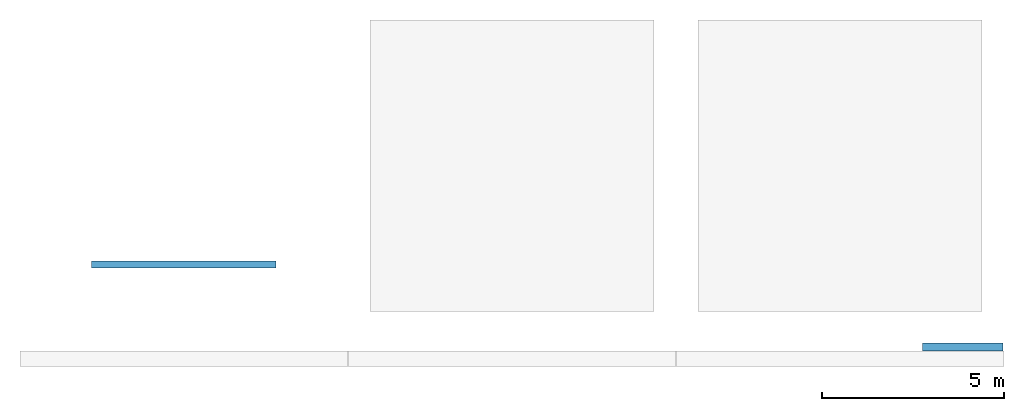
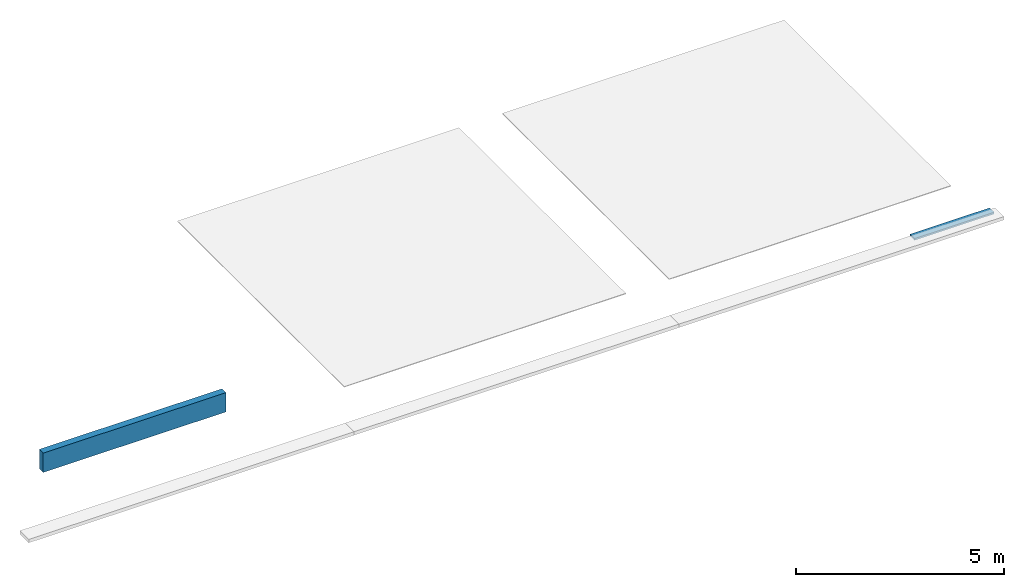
# One storey, part 1 of 2: 1 member, 1 wall, 1 element without a shape of its own.
"""IFC2X3 building model written with IfcOpenShell, lengths in millimetres."""

import ifcopenshell
import ifcopenshell.guid

model = None  # the IFC model being written
_history = None  # IfcOwnerHistory: only IFC2X3 demands one
_inside = {}  # id of a spatial element -> (the spatial element, [elements in it])
_under = {}  # id of a project, library or spatial element -> (it, [spatial elements below it])
_declared = {}  # id of a project -> (the project, [libraries it declares])
_typed = {}  # id of a type object -> (the type object, [elements of that type])
_made_of = {}  # id of a material, layer set ... -> (it, [elements and type objects made of it])


def new_model(schema):
    """Start an empty IFC model of exactly this schema.

    Asked for "IFC4X3", IfcOpenShell would pick the latest addendum, in which some entities
    have other attributes; the version numbers below select the first issue.
    IFC2X3 requires an IfcOwnerHistory on every rooted entity: one is made here for all.
    """
    global model, _history
    if schema == "IFC4X3":
        model = ifcopenshell.file(schema_version=(4, 3, 0, 0))
    else:
        model = ifcopenshell.file(schema=schema)
    _inside.clear()
    _under.clear()
    _declared.clear()
    _typed.clear()
    _made_of.clear()
    _history = None
    if model.schema == "IFC2X3":
        org = make("IfcOrganization", Name="unknown")
        user = make(
            "IfcPersonAndOrganization",
            ThePerson=make("IfcPerson", FamilyName="unknown"),
            TheOrganization=org,
        )
        app = make(
            "IfcApplication",
            ApplicationDeveloper=org,
            Version="unknown",
            ApplicationFullName="unknown",
            ApplicationIdentifier="unknown",
        )
        _history = make(
            "IfcOwnerHistory",
            OwningUser=user,
            OwningApplication=app,
            ChangeAction="ADDED",
            CreationDate=0,
        )
    return model


def make(cls, **values):
    """One entity of the class cls with the attributes given. An attribute that is None is left unset."""
    return model.create_entity(
        cls, **{name: value for name, value in values.items() if value is not None}
    )


def entity(cls, *values):
    """Any entity or typed value of the class cls, its attributes in the order of the schema. None: left unset."""
    e = model.create_entity(cls)
    for i, value in enumerate(values):
        if value is not None:
            e[i] = value
    return e


def rooted(cls, **values):
    """An entity with a GlobalId (a new one), such as an element, a storey or a relation."""
    return make(cls, GlobalId=ifcopenshell.guid.new(), OwnerHistory=_history, **values)


def si_unit(unit_type, name, prefix=None):
    """IfcSIUnit, for example si_unit("LENGTHUNIT", "METRE", prefix="MILLI")."""
    return make("IfcSIUnit", UnitType=unit_type, Prefix=prefix, Name=name)


def converted_unit(unit_type, name, factor, base, dimensions=None, offset=None):
    """IfcConversionBasedUnit, such as the inch: factor (a typed value) times the base unit."""
    return make(
        "IfcConversionBasedUnit"
        if offset is None
        else "IfcConversionBasedUnitWithOffset",
        ConversionOffset=offset,
        Dimensions=None
        if dimensions is None
        else entity("IfcDimensionalExponents", *dimensions),
        UnitType=unit_type,
        Name=name,
        ConversionFactor=make(
            "IfcMeasureWithUnit", ValueComponent=factor, UnitComponent=base
        ),
    )


def derived_unit(unit_type, elements):
    """IfcDerivedUnit: a product of units, each with its exponent."""
    return make(
        "IfcDerivedUnit",
        Elements=[
            make("IfcDerivedUnitElement", Unit=unit, Exponent=power)
            for unit, power in elements
        ],
        UnitType=unit_type,
    )


def assignment(units):
    """IfcUnitAssignment: the units of a project."""
    return None if units is None else make("IfcUnitAssignment", Units=units)


def point(xyz):
    """IfcCartesianPoint."""
    return None if xyz is None else make("IfcCartesianPoint", Coordinates=xyz)


def direction(xyz):
    """IfcDirection."""
    return None if xyz is None else make("IfcDirection", DirectionRatios=xyz)


def frame(location, z_axis=None, x_axis=None):
    """IfcAxis2Placement3D, a coordinate frame: its origin and axes. An axis left out is left unset."""
    return make(
        "IfcAxis2Placement3D",
        Location=point(location),
        Axis=direction(z_axis),
        RefDirection=direction(x_axis),
    )


def frame_2d(location, x_axis=None):
    """IfcAxis2Placement2D, a coordinate frame in the plane: its origin and x axis."""
    return make(
        "IfcAxis2Placement2D", Location=point(location), RefDirection=direction(x_axis)
    )


def origin():
    """The frame at (0, 0, 0) with its axes left unset."""
    return frame((0.0, 0.0, 0.0))


def origin_with_axes():
    """The frame at (0, 0, 0) with the z axis (0, 0, 1) and the x axis (1, 0, 0) written out."""
    return frame((0.0, 0.0, 0.0), z_axis=(0.0, 0.0, 1.0), x_axis=(1.0, 0.0, 0.0))


def origin_2d_with_axis():
    """The frame at (0, 0) in the plane with the x axis (1, 0) written out."""
    return frame_2d((0.0, 0.0), x_axis=(1.0, 0.0))


def place(relative_to, where):
    """IfcLocalPlacement: puts the frame where relative to a parent placement (None: the world)."""
    return make(
        "IfcLocalPlacement", PlacementRelTo=relative_to, RelativePlacement=where
    )


def context(
    kind, dimensions, precision=None, world=None, true_north=None, identifier=None
):
    """IfcGeometricRepresentationContext, for example the 3D "Model" context."""
    return make(
        "IfcGeometricRepresentationContext",
        ContextIdentifier=identifier,
        ContextType=kind,
        CoordinateSpaceDimension=dimensions,
        Precision=precision,
        WorldCoordinateSystem=world,
        TrueNorth=true_north,
    )


def subcontext(parent, identifier, kind, view, scale=None):
    """IfcGeometricRepresentationSubContext, for example "Body" below "Model"."""
    return make(
        "IfcGeometricRepresentationSubContext",
        ContextIdentifier=identifier,
        ContextType=kind,
        ParentContext=parent,
        TargetScale=scale,
        TargetView=view,
    )


def project(units=None, contexts=None):
    """IfcProject with its units and contexts."""
    return rooted(
        "IfcProject",
        Name="project",
        RepresentationContexts=contexts,
        UnitsInContext=assignment(units),
    )


def spatial(cls, under=None, at=None, **own):
    """A site, building, storey or space (cls), placed at a placement, below another one or the project."""
    s = rooted(cls, ObjectPlacement=at, **own)
    if under is not None:
        _under.setdefault(under.id(), (under, []))[1].append(s)
    return s


def profile(cls, at=None, kind="AREA", **sizes):
    """A parametric profile (cls). Its sizes go by their IFC names, for example OverallWidth=200.0."""
    return make(cls, ProfileType=kind, Position=at, **sizes)


def rectangle(**sizes):
    """IfcRectangleProfileDef."""
    return profile("IfcRectangleProfileDef", **sizes)


def extrude(swept, where, along, depth):
    """IfcExtrudedAreaSolid: the profile swept, set in the frame where, extruded along a direction by depth."""
    return make(
        "IfcExtrudedAreaSolid",
        SweptArea=swept,
        Position=where,
        ExtrudedDirection=direction(along),
        Depth=depth,
    )


def faces_of(points, faces, orient=None, outer=None):
    """IfcFace entities. A face is a list of loops; a loop is a list of indices into points, from 0.

    orient and outer hold one flag for each loop. By default every Orientation is true, the
    first loop of a face is its IfcFaceOuterBound and the others are IfcFaceBound.
    """
    made = []
    for i, loops in enumerate(faces):
        bounds = []
        for j, loop in enumerate(loops):
            is_outer = j == 0 if outer is None else outer[i][j]
            bounds.append(
                make(
                    "IfcFaceOuterBound" if is_outer else "IfcFaceBound",
                    Bound=make("IfcPolyLoop", Polygon=[points[k] for k in loop]),
                    Orientation=True if orient is None else orient[i][j],
                )
            )
        made.append(make("IfcFace", Bounds=bounds))
    return made


def faceted_brep(points, faces, orient=None, outer=None, voids=None):
    """IfcFacetedBrep: a solid bounded by flat faces; with voids (closed shells), ...WithVoids."""
    shared = [point(p) for p in points]
    hull = make("IfcClosedShell", CfsFaces=faces_of(shared, faces, orient, outer))
    if voids is None:
        return make("IfcFacetedBrep", Outer=hull)
    return make(
        "IfcFacetedBrepWithVoids",
        Outer=hull,
        Voids=[
            make(cls, CfsFaces=faces_of(shared, fs, o, b)) for cls, fs, o, b in voids
        ],
    )


def shape(context_of_items, identifier, shape_type, items):
    """IfcShapeRepresentation: the items that make up one representation, for example the "Body"."""
    return make(
        "IfcShapeRepresentation",
        ContextOfItems=context_of_items,
        RepresentationIdentifier=identifier,
        RepresentationType=shape_type,
        Items=items,
    )


def source(mapping_origin, context_of_items, identifier, shape_type, items):
    """IfcRepresentationMap: a shape defined once, which mapped items show again and again."""
    return make(
        "IfcRepresentationMap",
        MappingOrigin=mapping_origin,
        MappedRepresentation=shape(context_of_items, identifier, shape_type, items),
    )


def transform(
    local_origin,
    x_axis=None,
    y_axis=None,
    z_axis=None,
    scale=None,
    scale2=None,
    scale3=None,
    uniform=True,
):
    """IfcCartesianTransformationOperator3D, or its non-uniform kind. x_axis, y_axis, z_axis: its Axis1, 2, 3."""
    if uniform:
        return make(
            "IfcCartesianTransformationOperator3D",
            Axis1=direction(x_axis),
            Axis2=direction(y_axis),
            LocalOrigin=point(local_origin),
            Scale=scale,
            Axis3=direction(z_axis),
        )
    return make(
        "IfcCartesianTransformationOperator3DnonUniform",
        Axis1=direction(x_axis),
        Axis2=direction(y_axis),
        LocalOrigin=point(local_origin),
        Scale=scale,
        Axis3=direction(z_axis),
        Scale2=scale2,
        Scale3=scale3,
    )


def mapped(mapping_source, mapping_target):
    """IfcMappedItem: shows the shape of a source again, moved by a transform."""
    return make(
        "IfcMappedItem", MappingSource=mapping_source, MappingTarget=mapping_target
    )


def material(Name=None, Category=None):
    """IfcMaterial."""
    return make("IfcMaterial", Name=Name, Category=Category)


def layer(
    of_material, thickness, ventilated=None, Name=None, Category=None, Priority=None
):
    """IfcMaterialLayer: one layer of a wall or slab, of a material (None: an air gap)."""
    return make(
        "IfcMaterialLayer",
        Material=of_material,
        LayerThickness=thickness,
        IsVentilated=ventilated,
        Name=Name,
        Category=Category,
        Priority=Priority,
    )


def layer_set(layers, Name=None):
    """IfcMaterialLayerSet."""
    return make("IfcMaterialLayerSet", MaterialLayers=layers, LayerSetName=Name)


def made_of(thing, what):
    """Note that an element or type object is made of a material, layer set ...; save() writes the relation."""
    if what is not None:
        _made_of.setdefault(what.id(), (what, []))[1].append(thing)
    return thing


def type_object(cls, material=None, **own):
    """A type object (cls), such as IfcWallType, which elements share."""
    return made_of(rooted(cls, **own), material)


def element(
    cls,
    number,
    at=None,
    inside=None,
    cuts=None,
    type_object=None,
    material=None,
    context=None,
    identifier="Body",
    shape_type=None,
    held_by="IfcProductDefinitionShape",
    body=None,
    shapes=None,
    **own,
):
    """One element of the class cls, such as IfcWall. Its Tag is "e" and its number.

    at: its placement. inside: the storey or other place that contains it. cuts: it is an
    opening in that element (IfcRelVoidsElement). A single representation is given by context,
    identifier, shape_type and body (its items); several are given by shapes. held_by: the class
    of the entity that holds the representations. save() writes the other relations.
    """
    e = rooted(cls, Tag="e%d" % number, ObjectPlacement=at, **own)
    if body is not None:
        shapes = [shape(context, identifier, shape_type, body)]
    if shapes is not None:
        e.Representation = make(held_by, Representations=shapes)
    if inside is not None:
        _inside.setdefault(inside.id(), (inside, []))[1].append(e)
    if cuts is not None:
        rooted(
            "IfcRelVoidsElement", RelatingBuildingElement=cuts, RelatedOpeningElement=e
        )
    if type_object is not None:
        _typed.setdefault(type_object.id(), (type_object, []))[1].append(e)
    return made_of(e, material)


def aggregate(whole, parts):
    """IfcRelAggregates: a whole, such as a stair, and the parts it consists of."""
    return rooted("IfcRelAggregates", RelatingObject=whole, RelatedObjects=parts)


def save(model, path):
    """Write the relations noted so far, then the file.

    IfcRelAggregates (storeys below a building ...), IfcRelContainedInSpatialStructure (elements
    in a storey), IfcRelDefinesByType, IfcRelAssociatesMaterial and IfcRelDeclares: one each for
    every whole, place, type object, material and project.
    """
    for whole, parts in _under.values():
        aggregate(whole, parts)
    for where, things in _inside.values():
        rooted(
            "IfcRelContainedInSpatialStructure",
            RelatedElements=things,
            RelatingStructure=where,
        )
    for kind, things in _typed.values():
        rooted("IfcRelDefinesByType", RelatedObjects=things, RelatingType=kind)
    for what, things in _made_of.values():
        rooted("IfcRelAssociatesMaterial", RelatedObjects=things, RelatingMaterial=what)
    for by, libraries in _declared.values():
        rooted("IfcRelDeclares", RelatingContext=by, RelatedDefinitions=libraries)
    model.write(path)


model = new_model("IFC2X3")

# Units and contexts
model_context = context("Model", 3, precision=0.01, world=frame((0.0, 4.29681676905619e-09, 0.0)), true_north=direction((4.01073788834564e-13, 1.0)))
plan_context = context("Plan", 3, precision=0.01, world=frame((0.0, 4.29681676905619e-09, 0.0)), true_north=direction((4.01073788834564e-13, 1.0)))
body_context = subcontext(model_context, "Body", "Model", "MODEL_VIEW")
ifc_project = project(units=[converted_unit("PLANEANGLEUNIT", "DEGREE", entity("IfcPositiveLengthMeasure", 0.0174532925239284), si_unit("PLANEANGLEUNIT", "RADIAN"), dimensions=[0, 0, 0, 0, 0, 0, 0]), si_unit("AREAUNIT", "SQUARE_METRE"), si_unit("LENGTHUNIT", "METRE", prefix="MILLI"), si_unit("MASSUNIT", "GRAM", prefix="KILO"), si_unit("POWERUNIT", "WATT"), si_unit("PRESSUREUNIT", "PASCAL", prefix="KILO"), si_unit("FORCEUNIT", "NEWTON", prefix="KILO"), si_unit("ELECTRICVOLTAGEUNIT", "VOLT"), si_unit("ELECTRICCURRENTUNIT", "AMPERE"), si_unit("THERMODYNAMICTEMPERATUREUNIT", "DEGREE_CELSIUS"), si_unit("TIMEUNIT", "SECOND"), si_unit("VOLUMEUNIT", "CUBIC_METRE"), derived_unit("LINEARVELOCITYUNIT", [(si_unit("LENGTHUNIT", "METRE"), 1), (si_unit("TIMEUNIT", "SECOND"), -1)]), derived_unit("VOLUMETRICFLOWRATEUNIT", [(si_unit("VOLUMEUNIT", "CUBIC_METRE"), 1), (si_unit("TIMEUNIT", "SECOND"), -1)]), derived_unit("THERMALTRANSMITTANCEUNIT", [(si_unit("POWERUNIT", "WATT"), 1), (si_unit("THERMODYNAMICTEMPERATUREUNIT", "KELVIN"), -1), (si_unit("AREAUNIT", "SQUARE_METRE"), -1)]), derived_unit("SOUNDPRESSUREUNIT", [(si_unit("PRESSUREUNIT", "PASCAL"), 1)])], contexts=[model_context, plan_context])

# Site, building, storey
site_placement = place(None, origin_with_axes())
site = spatial("IfcSite", under=ifc_project, at=site_placement, Name="ENGM", CompositionType="ELEMENT")
building_placement = place(site_placement, origin_with_axes())
building = spatial("IfcBuilding", under=site, at=building_placement, Name="TG", CompositionType="ELEMENT")
storey_placement = place(building_placement, frame((0.0, 0.0, 205200.0), z_axis=(0.0, 0.0, 1.0), x_axis=(1.0, 0.0, 0.0)))
storey = spatial("IfcBuildingStorey", under=building, at=storey_placement, Name="Nivå D + 1,2 m", CompositionType="ELEMENT", Elevation=205200.0)

# Curtain wall, member
curtain_wall_type = type_object("IfcCurtainWallType", Name="Curtain Wall:A232 - UGV - Glass 30 mm", PredefinedType="NOTDEFINED")
curtain_wall_placement = place(storey_placement, frame((0.0, 0.0, -205200.0), z_axis=(0.0, 0.0, 1.0), x_axis=(1.0, 0.0, 0.0)))
curtain_wall = element("IfcCurtainWall", 1, at=curtain_wall_placement, inside=storey, type_object=curtain_wall_type, Name="Curtain Wall:A232 - UGV - Glass 30 mm", ObjectType="Curtain Wall:A232 - UGV - Glass 30 mm")
ifc_material_1 = material(Name="T2_Metal_Aluminium")
member_type = type_object("IfcMemberType", Name="Rectangular Mullion:A233 - Sprosse - 165(post)+50(dekkprofil) x 50 mm", PredefinedType="MULLION", material=ifc_material_1)
shared_shape = source(origin(), body_context, "Body", "SweptSolid", [
    extrude(rectangle(XDim=214.999999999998, YDim=50.0, at=origin_2d_with_axis()), frame((-25.0, -57.5000000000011, -2205.0), z_axis=(0.0, 0.0, 1.0), x_axis=(0.0, 1.0, 0.0)), (0.0, 0.0, 1.0), 2205.00000000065),
])
member_placement = place(curtain_wall_placement, frame((348975.000000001, 458465.0, 209445.0), z_axis=(1.0, 0.0, 0.0), x_axis=(0.0, 0.0, 1.0)))
member = element("IfcMember", 2, at=member_placement, type_object=member_type, material=ifc_material_1, Name="Rectangular Mullion:A233 - Sprosse - 165(post)+50(dekkprofil) x 50 mm", ObjectType="Rectangular Mullion:A233 - Sprosse - 165(post)+50(dekkprofil) x 50 mm", context=body_context, shape_type="MappedRepresentation", body=[
    mapped(shared_shape, transform((0.0, 0.0, 0.0), scale=1.0)),
])
aggregate(curtain_wall, [member])

# Wall
ifc_material_2 = material(Name="Betong - Multiblokk")
ifc_layer = layer(ifc_material_2, 187.0)
ifc_layer_set = layer_set([ifc_layer], Name="Basic Wall:A241 - MH-187")
wall_type = type_object("IfcWallType", Name="Basic Wall:A241 - MH-187", PredefinedType="STANDARD", material=ifc_layer_set)
wall_placement = place(storey_placement, frame((329016.325000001, 460793.499999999, 2160.0), z_axis=(0.0, 0.0, 1.0), x_axis=(-1.0, 0.0, 0.0)))
element("IfcWall", 3, at=wall_placement, inside=storey, type_object=wall_type, Name="Basic Wall:A241 - MH-187", ObjectType="Basic Wall:A241 - MH-187", context=body_context, shape_type="Brep", body=[
    faceted_brep([(5059.32500000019, 93.5000000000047, 1840.0), (5059.32500000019, -93.5000000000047, 1840.0), (5059.32500000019, -93.5000000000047, 2404.99999999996), (5059.32500000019, 93.5000000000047, 2404.99999999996), (0.0, 93.5000000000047, 1840.0), (0.0, 93.5000000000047, 2404.99999999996), (0.0, -93.5000000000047, 1840.0), (0.0, -93.5000000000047, 2404.99999999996)], [[[0, 1, 2, 3]], [[4, 0, 3, 5]], [[6, 4, 5, 7]], [[1, 6, 7, 2]], [[3, 2, 7, 5]], [[4, 6, 1, 0]]], orient=[[False], [False], [False], [False], [False], [False]]),
])

save(model, "model.ifc")
